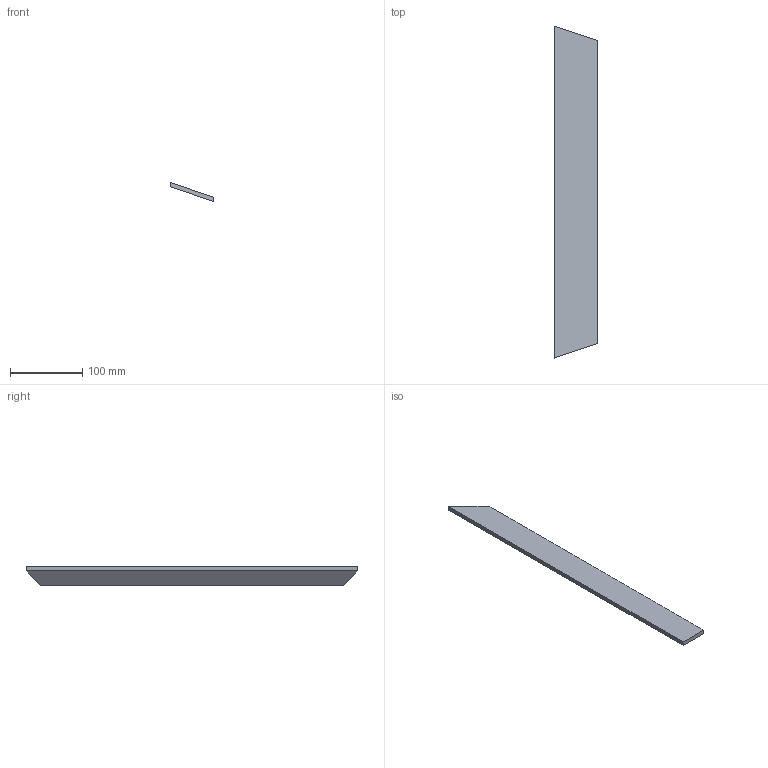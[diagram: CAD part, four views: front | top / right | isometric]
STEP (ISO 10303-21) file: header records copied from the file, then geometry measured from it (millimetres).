
FILE_DESCRIPTION(('Open CASCADE Model'),'2;1');
FILE_NAME('Open CASCADE Shape Model','2026-10-16T18:03:45',('Author'),( 'Open CASCADE'),'Open CASCADE STEP processor 7.8','Open CASCADE 7.8' ,'Unknown');
FILE_SCHEMA(('AUTOMOTIVE_DESIGN { 1 0 10303 214 1 1 1 1 }'));
Length unit declared in the file: millimetre
Products named in the file (1): Open CASCADE STEP translator 7.8 1
Bounding box: 60 x 460 x 26 mm (x, y, z)
Volume: 158400 mm3; surface area: 61695 mm2
Topology: 1 solids, 1 shells, 6 faces, 12 edges, 8 vertices
Faces by surface type: plane 6
Entity records: 322 total; most frequent: CARTESIAN_POINT 51, DIRECTION 50, LINE 36, VECTOR 36, ORIENTED_EDGE 24, PCURVE 24, DEFINITIONAL_REPRESENTATION 24, EDGE_CURVE 12
